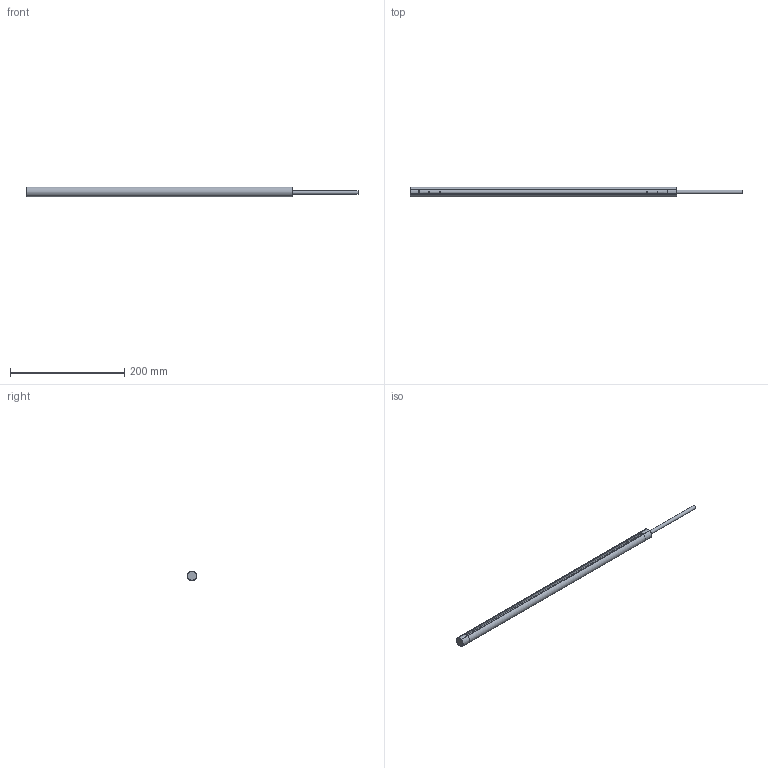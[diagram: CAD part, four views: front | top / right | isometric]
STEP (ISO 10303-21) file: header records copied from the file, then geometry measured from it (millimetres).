
FILE_DESCRIPTION(('ONLY FOR INFORMATION','HiCAD-Model','HiCAD-STEP-TRANSLATION'),'2;1');
FILE_NAME('Q:/##','2012-00-00',('D&E Department'),('Simco-Ion Europe','Aalsvoort 74','NL-7241 MB LOCHEM','www.simco-ion.nl'),' HiCAD 2011, Step 1600.0 ','HiCAD 2011','confidential');
FILE_SCHEMA(('AUTOMOTIVE_DESIGN { 1 2 10303 214 0 1 1 1 }'));
Length unit declared in the file: millimetre
Products named in the file (3): MEJ_400_3D; A_CABLE; A_MEJ BAR
Assembly tree (2 placements, depth 2):
  MEJ_400_3D
    A_CABLE
    A_MEJ BAR
Bounding box: 581 x 17.35 x 16.97 mm (x, y, z)
Volume: 77855.8 mm3; surface area: 67563.5 mm2
Topology: 2 solids, 2 shells, 38 faces, 104 edges, 66 vertices
Faces by surface type: cylinder 16, plane 10, cone 8, sphere 4
Full cylindrical faces by diameter (mm): 1.45 x4, 6.1 x1, 10.6 x1
Entity records: 4044 total; most frequent: CARTESIAN_POINT 2698, DIRECTION 176, ORIENTED_EDGE 120, COLOUR_RGB 88, PRESENTATION_STYLE_ASSIGNMENT 88, OVER_RIDING_STYLED_ITEM 86, AXIS2_PLACEMENT_3D 78, EDGE_CURVE 60
